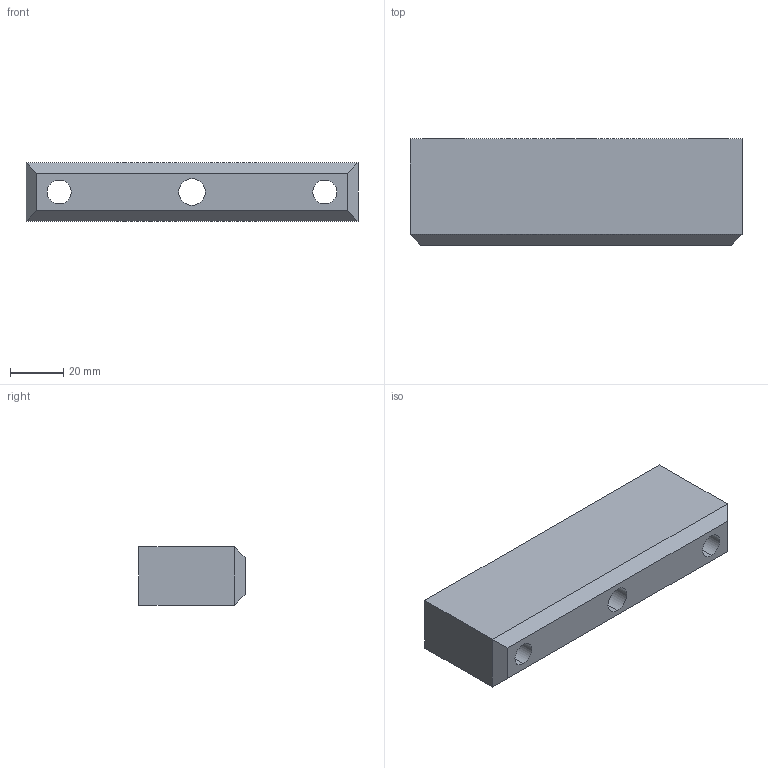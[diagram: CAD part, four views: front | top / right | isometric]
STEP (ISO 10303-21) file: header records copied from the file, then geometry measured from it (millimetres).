
FILE_DESCRIPTION(('CATIA V5 STEP Exchange'),'2;1');
FILE_NAME('C:\Users\Raffaele\Desktop\3D X SITO CF\761\GSB_OILLESS_M31705040125\STEP-2.03\761-040125.stp','2019-07-05T06:45:18+00:00',('none'),('none'),'CATIA Version 5 Release 20 GA (IN-10)','CATIA V5 STEP AP203','none');
FILE_SCHEMA(('CONFIG_CONTROL_DESIGN'));
Length unit declared in the file: millimetre
Products named in the file (1): 761-040125
Bounding box: 125 x 40 x 22 mm (x, y, z)
Volume: 94098.8 mm3; surface area: 20531.3 mm2
Topology: 1 solids, 1 shells, 25 faces, 80 edges, 60 vertices
Faces by surface type: plane 13, cylinder 12
Entity records: 1074 total; most frequent: CARTESIAN_POINT 316, ORIENTED_EDGE 160, DIRECTION 118, EDGE_CURVE 80, AXIS2_PLACEMENT_3D 62, VERTEX_POINT 60, CIRCLE 36, EDGE_LOOP 34
